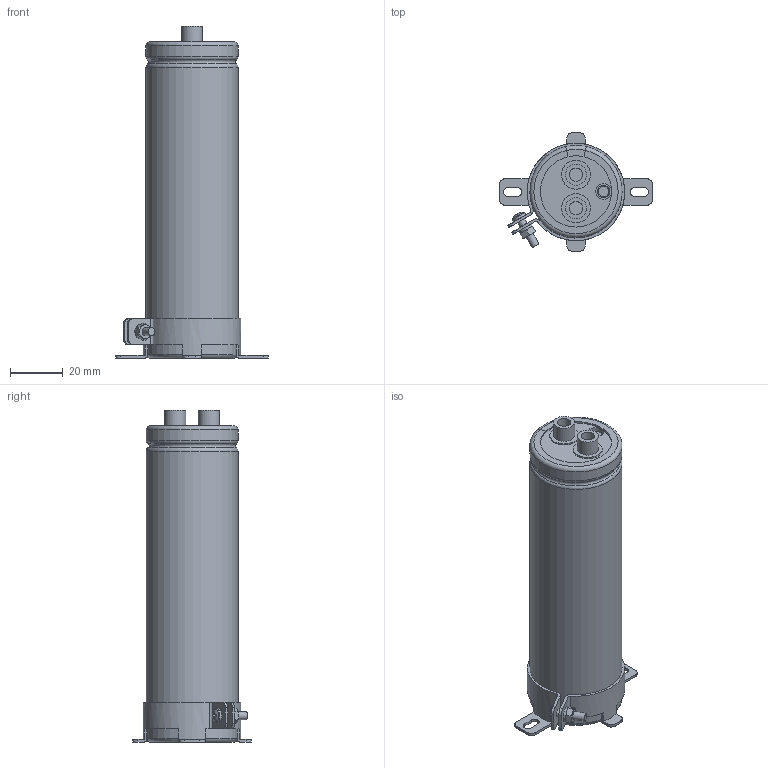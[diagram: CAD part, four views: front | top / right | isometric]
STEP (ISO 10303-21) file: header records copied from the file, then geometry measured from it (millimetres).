
FILE_DESCRIPTION(/* description */ (''),/* implementation_level */ '2;1');
FILE_NAME(/* name */ '35x120_Screw.stp',/* time_stamp */ '2017-09-14T14:19:49+09:00',/* author */ (''),/* organization */ (''),/* preprocessor_version */ 'ST-DEVELOPER v16',/* originating_system */ 'SIEMENS PLM Software NX 11.0',/* authorisation */ '');
FILE_SCHEMA (('AUTOMOTIVE_DESIGN { 1 0 10303 214 3 1 1 1 }'));
Length unit declared in the file: millimetre
Products named in the file (1): 35x120_Screw
Bounding box: 58 x 45 x 126 mm (x, y, z)
Volume: 116450.2 mm3; surface area: 46925.6 mm2
Topology: 8 solids, 8 shells, 171 faces, 430 edges, 285 vertices
Faces by surface type: plane 86, cylinder 53, torus 30, cone 1, sphere 1
Full cylindrical faces by diameter (mm): 3 x5, 4 x1, 4.7 x1, 5 x2, 5.5 x2, 6 x2, 8 x2, 11 x2, 33.8 x2
Entity records: 5409 total; most frequent: CARTESIAN_POINT 1122, DIRECTION 928, ORIENTED_EDGE 796, EDGE_CURVE 398, AXIS2_PLACEMENT_3D 372, VERTEX_POINT 280, EDGE_LOOP 220, CIRCLE 200
